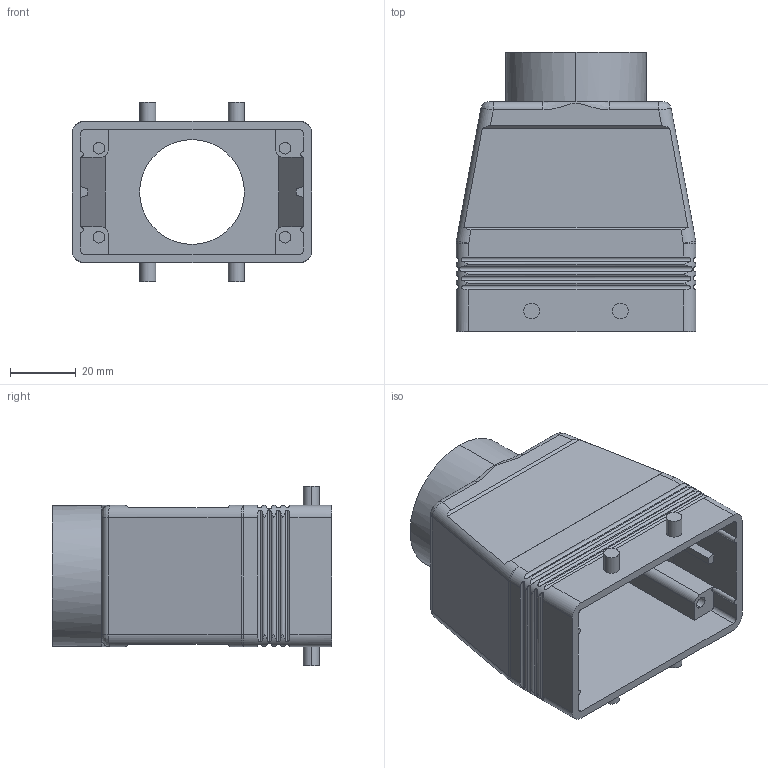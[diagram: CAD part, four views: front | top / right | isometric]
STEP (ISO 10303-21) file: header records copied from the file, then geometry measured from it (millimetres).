
FILE_DESCRIPTION (( 'STEP AP214' ), '1' );
FILE_NAME ('CAV-10.29.STEP', '2006-07-05T18:58:57', ( 'Mencom User' ), ( 'Mencom Corporation' ), 'SwSTEP 2.0', 'SolidWorks 2006104', '' );
FILE_SCHEMA (( 'AUTOMOTIVE_DESIGN' ));
Length unit declared in the file: inch
Products named in the file (1): CAV-10.29
Bounding box: 73 x 84.98 x 54.65 mm (x, y, z)
Volume: 54273.3 mm3; surface area: 37537.6 mm2
Topology: 1 solids, 1 shells, 178 faces, 476 edges, 310 vertices
Faces by surface type: cylinder 103, plane 65, bspline 6, sphere 4
Entity records: 12717 total; most frequent: CARTESIAN_POINT 8453, ORIENTED_EDGE 952, DIRECTION 796, EDGE_CURVE 476, VERTEX_POINT 310, AXIS2_PLACEMENT_3D 277, VECTOR 242, LINE 242
